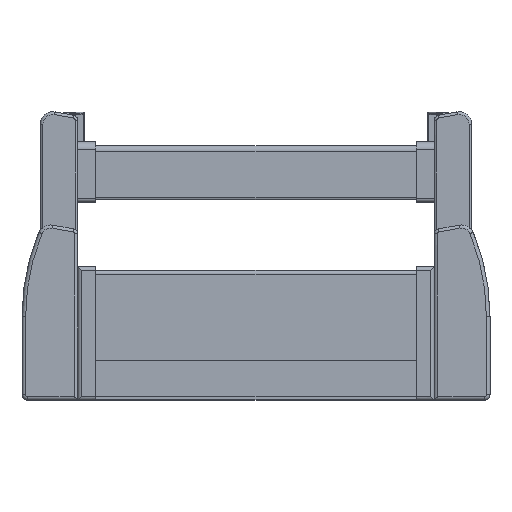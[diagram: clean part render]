
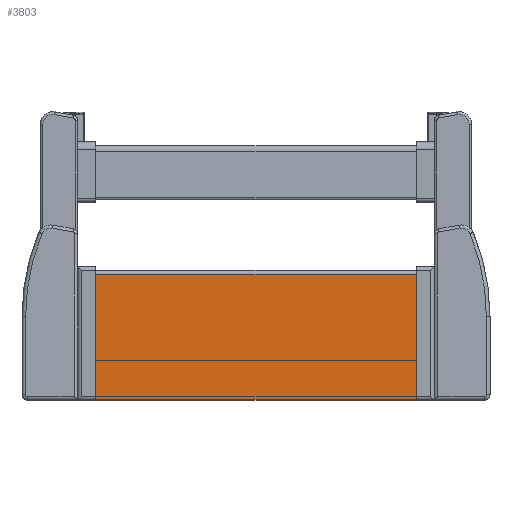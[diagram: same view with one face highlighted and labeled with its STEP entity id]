
A CAD part, top view. The second image highlights one B-rep face of the part: STEP entity #3803.
In plain terms, the highlighted planar face has unit normal (0, 0, 1).
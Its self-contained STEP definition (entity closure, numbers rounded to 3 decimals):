
#167 = CARTESIAN_POINT ( 'NONE',  ( -88.8, -92.5, 1.4 ) ) ;
#168 = DIRECTION ( 'NONE',  ( -1., 0., 0. ) ) ;
#169 = VECTOR ( 'NONE', #168, 1000. ) ;
#170 = CARTESIAN_POINT ( 'NONE',  ( 162.556, -92.5, 1.4 ) ) ;
#171 = LINE ( 'NONE', #170, #169 ) ;
#268 = CARTESIAN_POINT ( 'NONE',  ( -88.8, -23., 1.4 ) ) ;
#270 = DIRECTION ( 'NONE',  ( 0., 1., 0. ) ) ;
#271 = VECTOR ( 'NONE', #270, 1000. ) ;
#272 = CARTESIAN_POINT ( 'NONE',  ( -88.8, -92.5, 1.4 ) ) ;
#273 = LINE ( 'NONE', #272, #271 ) ;
#957 = CARTESIAN_POINT ( 'NONE',  ( 88.8, -23., 1.4 ) ) ;
#2926 = VERTEX_POINT ( 'NONE', #5114 ) ;
#2931 = EDGE_CURVE ( 'NONE', #2926, #4443, #5077, .T. ) ;
#3798 = ORIENTED_EDGE ( 'NONE', *, *, #3951, .F. ) ;
#3800 = EDGE_LOOP ( 'NONE', ( #3798, #3801, #4089, #4020 ) ) ;
#3801 = ORIENTED_EDGE ( 'NONE', *, *, #2931, .T. ) ;
#3803 = ADVANCED_FACE ( 'NONE', ( #6879 ), #6874, .F. ) ;
#3823 = EDGE_CURVE ( 'NONE', #4443, #4025, #6900, .T. ) ;
#3951 = EDGE_CURVE ( 'NONE', #2926, #3952, #171, .T. ) ;
#3952 = VERTEX_POINT ( 'NONE', #167 ) ;
#4016 = EDGE_CURVE ( 'NONE', #3952, #4025, #273, .T. ) ;
#4020 = ORIENTED_EDGE ( 'NONE', *, *, #4016, .F. ) ;
#4025 = VERTEX_POINT ( 'NONE', #268 ) ;
#4089 = ORIENTED_EDGE ( 'NONE', *, *, #3823, .T. ) ;
#4443 = VERTEX_POINT ( 'NONE', #957 ) ;
#5074 = DIRECTION ( 'NONE',  ( 0., 1., 0. ) ) ;
#5075 = VECTOR ( 'NONE', #5074, 1000. ) ;
#5076 = CARTESIAN_POINT ( 'NONE',  ( 88.8, -92.5, 1.4 ) ) ;
#5077 = LINE ( 'NONE', #5076, #5075 ) ;
#5114 = CARTESIAN_POINT ( 'NONE',  ( 88.8, -92.5, 1.4 ) ) ;
#6870 = DIRECTION ( 'NONE',  ( 0., 1., 0. ) ) ;
#6871 = DIRECTION ( 'NONE',  ( 0., 0., -1. ) ) ;
#6872 = CARTESIAN_POINT ( 'NONE',  ( 162.556, -92.5, 1.4 ) ) ;
#6873 = AXIS2_PLACEMENT_3D ( 'NONE', #6872, #6871, #6870 ) ;
#6874 = PLANE ( 'NONE',  #6873 ) ;
#6879 = FACE_OUTER_BOUND ( 'NONE', #3800, .T. ) ;
#6897 = DIRECTION ( 'NONE',  ( -1., 0., 0. ) ) ;
#6898 = VECTOR ( 'NONE', #6897, 1000. ) ;
#6899 = CARTESIAN_POINT ( 'NONE',  ( 162.556, -23., 1.4 ) ) ;
#6900 = LINE ( 'NONE', #6899, #6898 ) ;
